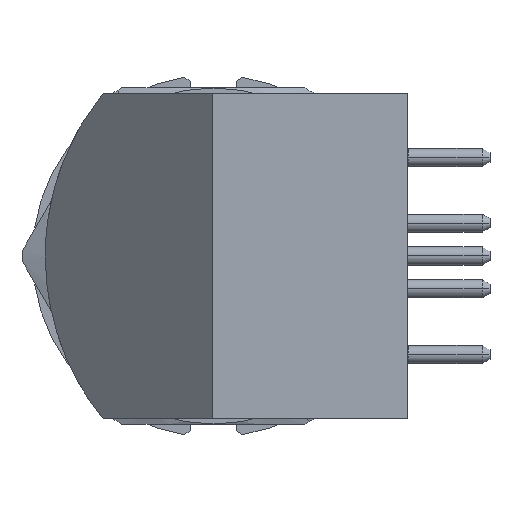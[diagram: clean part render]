
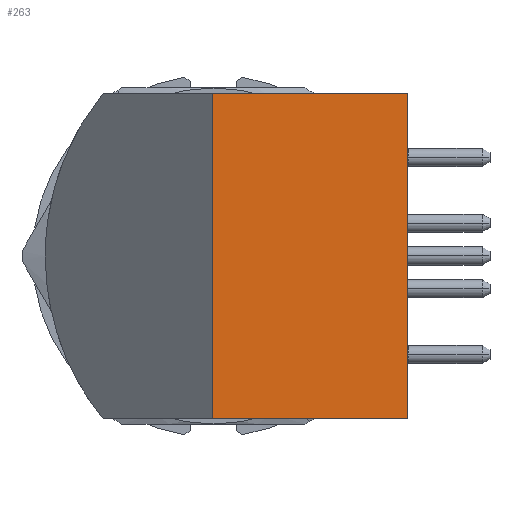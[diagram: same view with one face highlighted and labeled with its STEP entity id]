
A CAD part, left-side view. The second image highlights one B-rep face of the part: STEP entity #263.
In plain terms, the highlighted planar face has unit normal (-1, 0, 0).
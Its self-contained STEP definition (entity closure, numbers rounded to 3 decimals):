
#263=ADVANCED_FACE('',(#542),#543,.T.);
#542=FACE_OUTER_BOUND('',#826,.T.);
#543=PLANE('',#827);
#826=EDGE_LOOP('',(#1534,#1535,#1536,#1537));
#827=AXIS2_PLACEMENT_3D('',#1538,#1539,#1540);
#1534=ORIENTED_EDGE('',*,*,#1956,.T.);
#1535=ORIENTED_EDGE('',*,*,#1995,.T.);
#1536=ORIENTED_EDGE('',*,*,#1993,.T.);
#1537=ORIENTED_EDGE('',*,*,#1997,.T.);
#1538=CARTESIAN_POINT('',(-27.04,-7.5,0.));
#1539=DIRECTION('',(-1.0,0.,0.));
#1540=DIRECTION('',(0.,1.0,0.0));
#1956=EDGE_CURVE('',#2460,#2458,#2461,.T.);
#1993=EDGE_CURVE('',#2498,#2500,#2502,.T.);
#1995=EDGE_CURVE('',#2458,#2498,#2504,.T.);
#1997=EDGE_CURVE('',#2500,#2460,#2506,.T.);
#2458=VERTEX_POINT('',#3469);
#2460=VERTEX_POINT('',#3472);
#2461=LINE('',#3473,#3474);
#2498=VERTEX_POINT('',#3514);
#2500=VERTEX_POINT('',#3517);
#2502=LINE('',#3520,#3521);
#2504=LINE('',#3523,#3524);
#2506=LINE('',#3526,#3527);
#3469=CARTESIAN_POINT('',(-27.04,0.05,6.3));
#3472=CARTESIAN_POINT('',(-27.04,-7.5,6.3));
#3473=CARTESIAN_POINT('',(-27.04,0.05,6.3));
#3474=VECTOR('',#4013,10.0);
#3514=CARTESIAN_POINT('',(-27.04,0.05,-6.3));
#3517=CARTESIAN_POINT('',(-27.04,-7.5,-6.3));
#3520=CARTESIAN_POINT('',(-27.04,0.05,-6.3));
#3521=VECTOR('',#4067,10.0);
#3523=CARTESIAN_POINT('',(-27.04,0.05,0.));
#3524=VECTOR('',#4068,10.0);
#3526=CARTESIAN_POINT('',(-27.04,-7.5,0.));
#3527=VECTOR('',#4069,10.0);
#4013=DIRECTION('',(0.,1.0,0.));
#4067=DIRECTION('',(0.,-1.0,0.));
#4068=DIRECTION('',(0.,0.,-1.0));
#4069=DIRECTION('',(0.,0.,1.0));
